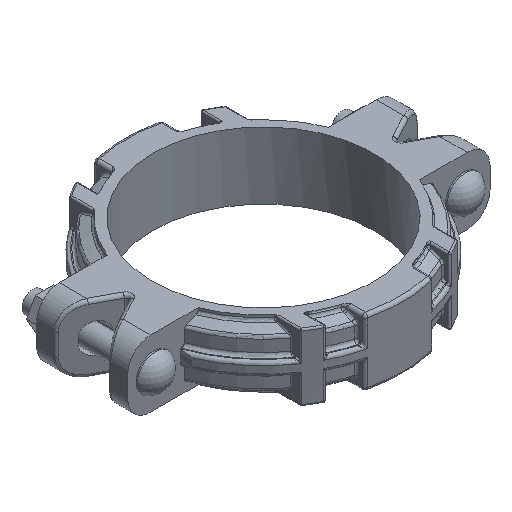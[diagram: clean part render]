
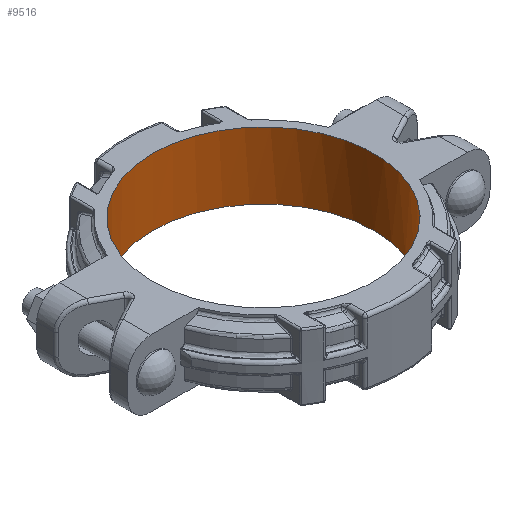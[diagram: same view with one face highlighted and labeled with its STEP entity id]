
A CAD part, isometric view. The second image highlights one B-rep face of the part: STEP entity #9516.
In plain terms, the highlighted cylindrical face has radius 115.888 mm (diameter 231.775 mm), a full revolution.
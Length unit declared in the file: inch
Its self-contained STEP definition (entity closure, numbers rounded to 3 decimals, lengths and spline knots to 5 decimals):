
#953=CYLINDRICAL_SURFACE('',#10515,4.5625);
#1540=FACE_OUTER_BOUND('',#2127,.T.);
#2127=EDGE_LOOP('',(#8165,#8166,#8167,#8168,#8169,#8170));
#2518=LINE('',#22690,#2897);
#2897=VECTOR('',#12863,4.5625);
#2978=CIRCLE('',#9697,4.5625);
#2979=CIRCLE('',#9698,4.5625);
#2996=CIRCLE('',#9719,4.5625);
#2997=CIRCLE('',#9720,4.5625);
#3617=VERTEX_POINT('',#13724);
#3618=VERTEX_POINT('',#13725);
#3664=VERTEX_POINT('',#13919);
#3665=VERTEX_POINT('',#13920);
#4456=EDGE_CURVE('',#3617,#3618,#2978,.T.);
#4457=EDGE_CURVE('',#3618,#3617,#2979,.T.);
#4508=EDGE_CURVE('',#3664,#3665,#2996,.T.);
#4509=EDGE_CURVE('',#3665,#3664,#2997,.T.);
#5584=EDGE_CURVE('',#3665,#3618,#2518,.T.);
#8165=ORIENTED_EDGE('',*,*,#4508,.T.);
#8166=ORIENTED_EDGE('',*,*,#5584,.T.);
#8167=ORIENTED_EDGE('',*,*,#4456,.F.);
#8168=ORIENTED_EDGE('',*,*,#4457,.F.);
#8169=ORIENTED_EDGE('',*,*,#5584,.F.);
#8170=ORIENTED_EDGE('',*,*,#4509,.T.);
#9516=ADVANCED_FACE('',(#1540),#953,.F.);
#9697=AXIS2_PLACEMENT_3D('',#13726,#10953,#10954);
#9698=AXIS2_PLACEMENT_3D('',#13727,#10955,#10956);
#9719=AXIS2_PLACEMENT_3D('',#13921,#11019,#11020);
#9720=AXIS2_PLACEMENT_3D('',#13922,#11021,#11022);
#10515=AXIS2_PLACEMENT_3D('',#22689,#12861,#12862);
#10953=DIRECTION('center_axis',(0.,0.,-1.));
#10954=DIRECTION('ref_axis',(1.,0.,0.));
#10955=DIRECTION('center_axis',(0.,0.,-1.));
#10956=DIRECTION('ref_axis',(1.,0.,0.));
#11019=DIRECTION('center_axis',(0.,0.,-1.));
#11020=DIRECTION('ref_axis',(-1.,0.,0.));
#11021=DIRECTION('center_axis',(0.,0.,-1.));
#11022=DIRECTION('ref_axis',(-1.,0.,0.));
#12861=DIRECTION('center_axis',(0.,0.,-1.));
#12862=DIRECTION('ref_axis',(0.,-1.,0.));
#12863=DIRECTION('',(0.,0.,1.));
#13724=CARTESIAN_POINT('',(4.15942,-1.875,1.375));
#13725=CARTESIAN_POINT('',(0.,4.5625,1.375));
#13726=CARTESIAN_POINT('Origin',(0.,0.,1.375));
#13727=CARTESIAN_POINT('Origin',(0.,0.,1.375));
#13919=CARTESIAN_POINT('',(-4.5625,0.,-1.375));
#13920=CARTESIAN_POINT('',(0.,4.5625,-1.375));
#13921=CARTESIAN_POINT('Origin',(0.,0.,-1.375));
#13922=CARTESIAN_POINT('Origin',(0.,0.,-1.375));
#22689=CARTESIAN_POINT('Origin',(0.,0.,0.));
#22690=CARTESIAN_POINT('',(0.,4.5625,0.));
